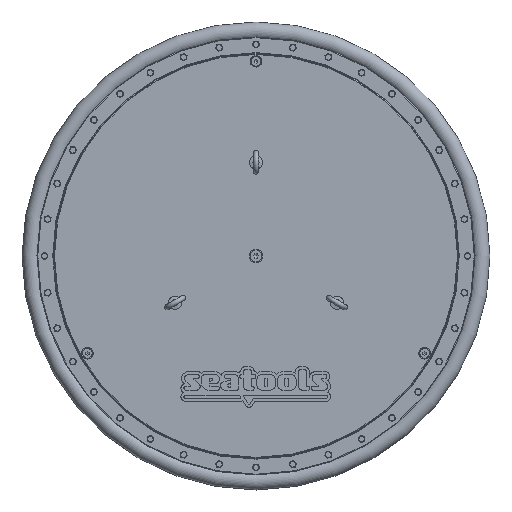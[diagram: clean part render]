
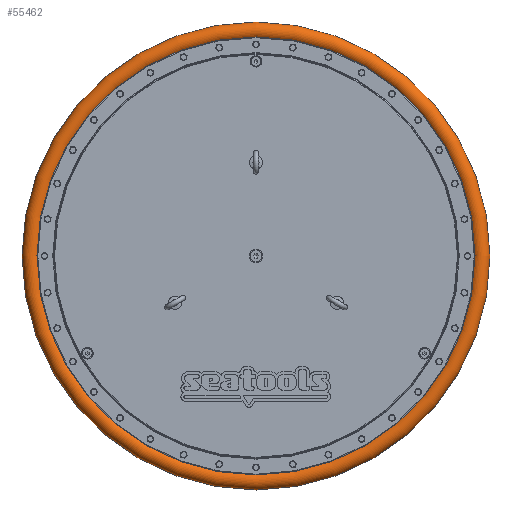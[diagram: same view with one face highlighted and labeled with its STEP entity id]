
A CAD part, top view. The second image highlights one B-rep face of the part: STEP entity #55462.
In plain terms, the highlighted toroidal (fillet/blend) face has major radius 601.42 mm and minor radius 23.579 mm.
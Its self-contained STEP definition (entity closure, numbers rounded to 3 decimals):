
#10043=TOROIDAL_SURFACE('',#59457,601.42,23.58);
#10911=FACE_BOUND('',#19670,.T.);
#16020=FACE_OUTER_BOUND('',#19669,.T.);
#19669=EDGE_LOOP('',(#41339));
#19670=EDGE_LOOP('',(#41340));
#23061=CIRCLE('',#59450,582.723);
#23065=CIRCLE('',#59458,586.954);
#25784=VERTEX_POINT('',#84273);
#25788=VERTEX_POINT('',#84285);
#31605=EDGE_CURVE('',#25784,#25784,#23061,.T.);
#31609=EDGE_CURVE('',#25788,#25788,#23065,.T.);
#41339=ORIENTED_EDGE('',*,*,#31605,.F.);
#41340=ORIENTED_EDGE('',*,*,#31609,.F.);
#55462=ADVANCED_FACE('',(#16020,#10911),#10043,.T.);
#59450=AXIS2_PLACEMENT_3D('',#84274,#66573,#66574);
#59457=AXIS2_PLACEMENT_3D('',#84284,#66587,#66588);
#59458=AXIS2_PLACEMENT_3D('',#84286,#66589,#66590);
#66573=DIRECTION('center_axis',(0.,0.,
1.));
#66574=DIRECTION('ref_axis',(1.,0.,0.));
#66587=DIRECTION('center_axis',(0.,0.,
1.));
#66588=DIRECTION('ref_axis',(0.,1.,0.));
#66589=DIRECTION('center_axis',(0.,0.,
-1.));
#66590=DIRECTION('ref_axis',(1.,0.,0.));
#84273=CARTESIAN_POINT('',(582.723,0.,194.298));
#84274=CARTESIAN_POINT('Origin',(0.,0.,
194.298));
#84284=CARTESIAN_POINT('Origin',(0.,0.,
179.932));
#84285=CARTESIAN_POINT('',(586.954,0.,161.311));
#84286=CARTESIAN_POINT('Origin',(0.,0.,
161.311));
